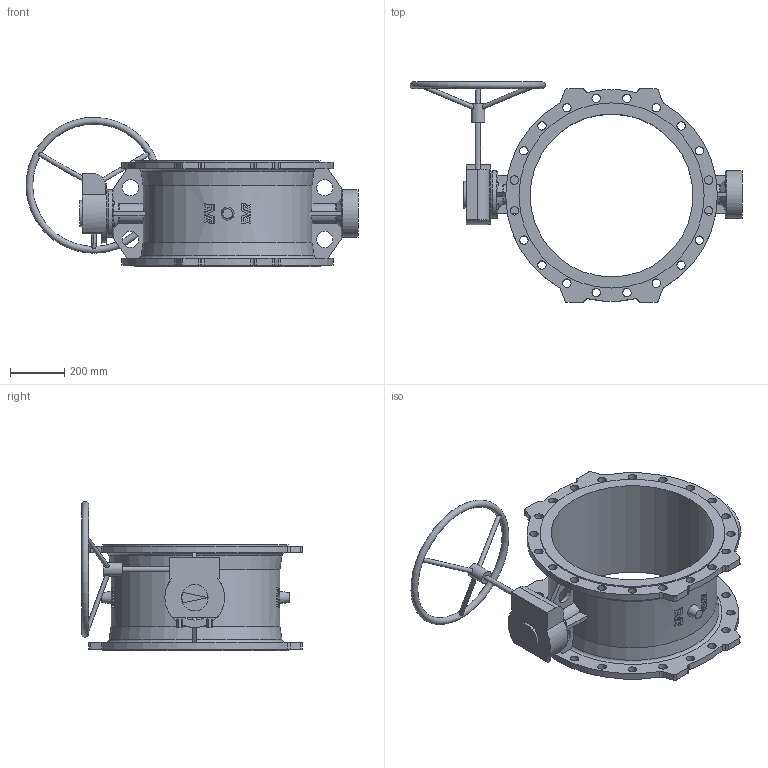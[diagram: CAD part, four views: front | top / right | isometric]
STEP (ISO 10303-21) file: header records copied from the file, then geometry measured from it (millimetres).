
FILE_DESCRIPTION (( 'STEP AP203' ), '1' );
FILE_NAME ('O_756_1_DN600_0XX00_AA0_step.step', '2016-03-04T11:54:13', ( 'Windows User' ), ( 'AVK' ), 'SwSTEP 2.0', 'SolidWorks 2012', '' );
FILE_SCHEMA (( 'CONFIG_CONTROL_DESIGN' ));
Length unit declared in the file: millimetre
Products named in the file (1): O_756_1_DN600_0XX00_AA0_step
Bounding box: 1222.85 x 811.97 x 549.38 mm (x, y, z)
Volume: 27504535.4 mm3; surface area: 2881864.5 mm2
Topology: 1 solids, 1 shells, 574 faces, 1671 edges, 1128 vertices
Faces by surface type: bspline 216, plane 176, cylinder 136, torus 32, cone 14
Full cylindrical faces by diameter (mm): 16 x3, 20 x1, 31 x40, 50 x1, 60 x4, 98 x1, 175 x2, 220 x1, 600 x1, 682 x2
Entity records: 23639 total; most frequent: CARTESIAN_POINT 10756, ORIENTED_EDGE 3118, DIRECTION 1749, EDGE_CURVE 1559, VERTEX_POINT 1078, B_SPLINE_CURVE_WITH_KNOTS 845, EDGE_LOOP 759, AXIS2_PLACEMENT_3D 676
